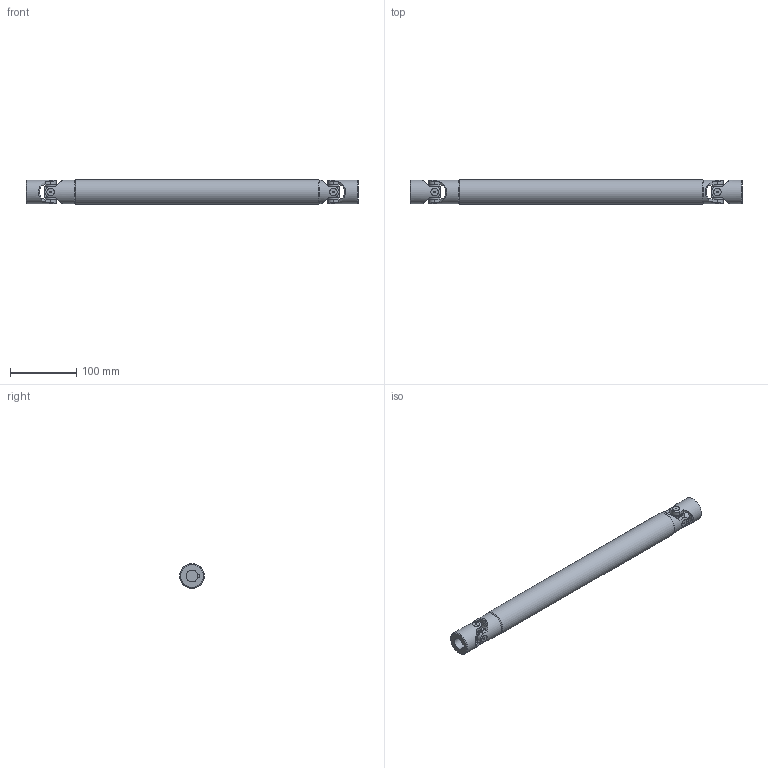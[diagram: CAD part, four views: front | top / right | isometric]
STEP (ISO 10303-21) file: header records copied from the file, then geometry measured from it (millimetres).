
FILE_DESCRIPTION(/* description */ (''),/* implementation_level */ '2;1');
FILE_NAME(/* name */ '\\SRV2016\Societa\Stefano\Disegni 3D\00Catalogo 3D\03Trasmissioni standard GA\2GA29\2GA29_SG0A1829.stp',/* time_stamp */ '2022-02-16T17:06:59+01:00',/* author */ ('acquisti'),/* organization */ (''),/* preprocessor_version */ 'ST-DEVELOPER v15.6',/* originating_system */ 'Autodesk Inventor 2015',/* authorisation */ '');
FILE_SCHEMA (('AUTOMOTIVE_DESIGN { 1 0 10303 214 3 1 1 }'));
Length unit declared in the file: millimetre
Products named in the file (5): 2G MOC; 2G SFE; 2GA29 LAI; 2GA29 LCI; 2GA29_SG0A1829
Assembly tree (6 placements, depth 2):
  2GA29_SG0A1829
    2G MOC  x2
    2G SFE  x2
    2GA29 LAI
    2GA29 LCI
Bounding box: 500 x 37.5 x 37.5 mm (x, y, z)
Volume: 356198.8 mm3; surface area: 137436.6 mm2
Topology: 6 solids, 6 shells, 228 faces, 561 edges, 369 vertices
Faces by surface type: plane 106, cylinder 93, cone 25, torus 4
Full cylindrical faces by diameter (mm): 2 x8, 16 x8, 18 x1, 20 x2, 31 x1, 36 x4, 37.5 x1
Entity records: 5813 total; most frequent: CARTESIAN_POINT 1703, DIRECTION 823, ORIENTED_EDGE 820, EDGE_CURVE 410, AXIS2_PLACEMENT_3D 335, VERTEX_POINT 286, EDGE_LOOP 224, FACE_OUTER_BOUND 176
